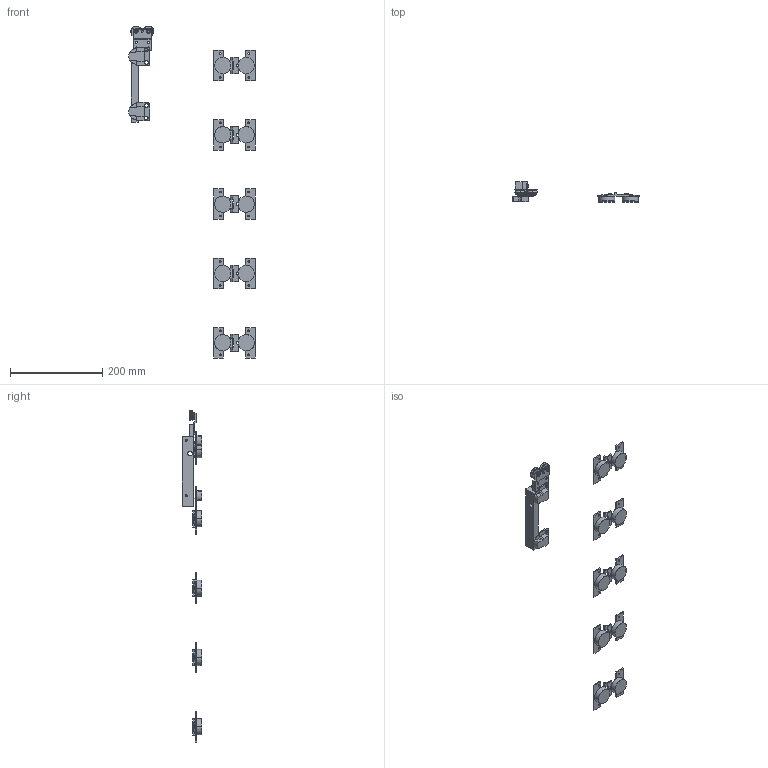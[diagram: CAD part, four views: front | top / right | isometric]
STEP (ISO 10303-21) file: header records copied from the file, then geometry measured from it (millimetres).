
FILE_DESCRIPTION( ( '' ), '1' );
FILE_NAME( '//10.120.51.241/design/Data Transfer/sunil/10084.stp', '2013-09-20T06:20:30', ( '' ), ( '' ), ' ', ' ', ' ' );
FILE_SCHEMA( ( 'automotive_design' ) );
Length unit declared in the file: millimetre
Products named in the file (6): 1; 2; 3; 4; 5; 6
Bounding box: 274.3 x 42.63 x 718.5 mm (x, y, z)
Volume: 181126.3 mm3; surface area: 122243.9 mm2
Topology: 6 solids, 6 shells, 774 faces, 2363 edges, 1514 vertices
Faces by surface type: plane 488, cylinder 278, torus 8
Entity records: 52581 total; most frequent: CARTESIAN_POINT 4727, ORIENTED_EDGE 4726, DIRECTION 4721, STYLED_ITEM 4657, PRESENTATION_STYLE_ASSIGNMENT 4657, COLOUR_RGB 4657, EDGE_CURVE 2363, CURVE_STYLE 2363
